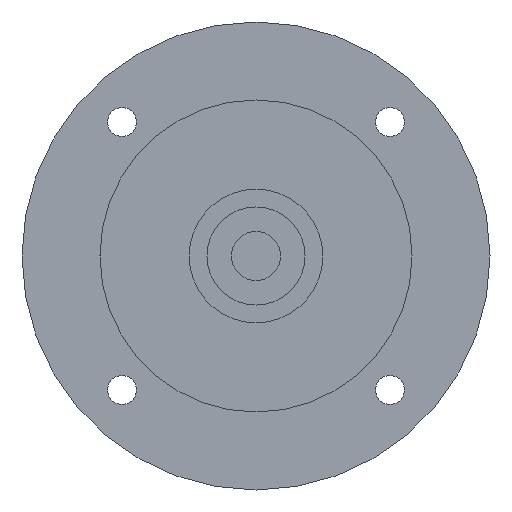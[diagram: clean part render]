
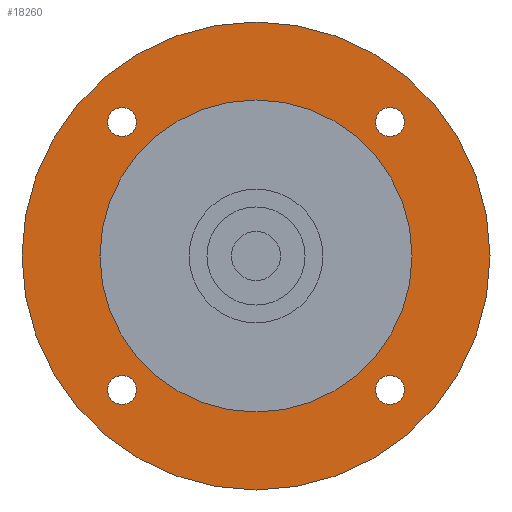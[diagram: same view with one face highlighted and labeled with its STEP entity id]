
A CAD part, left-side view. The second image highlights one B-rep face of the part: STEP entity #18260.
In plain terms, the highlighted planar face has unit normal (-1, 0, 0) as drawn and (0, 0, -1) by its records, which use the part's own axes.
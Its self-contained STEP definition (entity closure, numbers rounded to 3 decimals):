
#11110=CARTESIAN_POINT('',(30.052,-33.302,-58.5));
#11120=VERTEX_POINT('',#11110);
#11150=CARTESIAN_POINT('',(30.052,-30.052,-58.5));
#11160=DIRECTION('',(0.,0.,-1.));
#11170=DIRECTION('',(0.,-1.,0.));
#11180=AXIS2_PLACEMENT_3D('',#11150,#11160,#11170);
#11190=CIRCLE('',#11180,3.25);
#11200=CARTESIAN_POINT('',(30.052,-26.802,-58.5));
#11210=VERTEX_POINT('',#11200);
#11220=EDGE_CURVE('',#11210,#11120,#11190,.T.);
#12870=CARTESIAN_POINT('',(-30.052,-33.302,-58.5));
#12880=VERTEX_POINT('',#12870);
#12910=CARTESIAN_POINT('',(-30.052,-30.052,-58.5));
#12920=DIRECTION('',(0.,0.,-1.));
#12930=DIRECTION('',(0.,-1.,0.));
#12940=AXIS2_PLACEMENT_3D('',#12910,#12920,#12930);
#12950=CIRCLE('',#12940,3.25);
#12960=CARTESIAN_POINT('',(-30.052,-26.802,-58.5));
#12970=VERTEX_POINT('',#12960);
#12980=EDGE_CURVE('',#12970,#12880,#12950,.T.);
#17380=CARTESIAN_POINT('',(52.5,0.,-58.5));
#17390=VERTEX_POINT('',#17380);
#17420=CARTESIAN_POINT('',(0.,0.,
-58.5));
#17430=DIRECTION('',(0.,0.,1.));
#17440=DIRECTION('',(1.,0.,0.));
#17450=AXIS2_PLACEMENT_3D('',#17420,#17430,#17440);
#17460=CIRCLE('',#17450,52.5);
#17470=CARTESIAN_POINT('',(-52.5,0.,-58.5));
#17480=VERTEX_POINT('',#17470);
#17490=EDGE_CURVE('',#17480,#17390,#17460,.T.);
#17610=CARTESIAN_POINT('',(0.,0.,
-58.5));
#17620=DIRECTION('',(0.,0.,1.));
#17630=DIRECTION('',(-1.,0.,0.));
#17640=AXIS2_PLACEMENT_3D('',#17610,#17620,#17630);
#17650=PLANE('',#17640);
#17660=CARTESIAN_POINT('',(0.,0.,
-58.5));
#17670=DIRECTION('',(0.,0.,-1.));
#17680=DIRECTION('',(0.,-1.,0.));
#17690=AXIS2_PLACEMENT_3D('',#17660,#17670,#17680);
#17700=CIRCLE('',#17690,35.);
#17710=CARTESIAN_POINT('',(0.,-35.,-58.5));
#17720=VERTEX_POINT('',#17710);
#17730=CARTESIAN_POINT('',(0.,35.,-58.5));
#17740=VERTEX_POINT('',#17730);
#17750=EDGE_CURVE('',#17720,#17740,#17700,.T.);
#17760=ORIENTED_EDGE('',*,*,#17750,.F.);
#17770=EDGE_CURVE('',#17740,#17720,#17700,.T.);
#17780=ORIENTED_EDGE('',*,*,#17770,.F.);
#17790=EDGE_LOOP('',(#17780,#17760));
#17800=FACE_BOUND('',#17790,.T.);
#17810=EDGE_CURVE('',#17390,#17480,#17460,.T.);
#17820=ORIENTED_EDGE('',*,*,#17810,.F.);
#17830=ORIENTED_EDGE('',*,*,#17490,.F.);
#17840=EDGE_LOOP('',(#17830,#17820));
#17850=FACE_OUTER_BOUND('',#17840,.T.);
#17860=CARTESIAN_POINT('',(-30.052,30.052,-58.5));
#17870=DIRECTION('',(0.,0.,-1.));
#17880=DIRECTION('',(0.,-1.,0.));
#17890=AXIS2_PLACEMENT_3D('',#17860,#17870,#17880);
#17900=CIRCLE('',#17890,3.25);
#17910=CARTESIAN_POINT('',(-30.052,26.802,-58.5));
#17920=VERTEX_POINT('',#17910);
#17930=CARTESIAN_POINT('',(-30.052,33.302,-58.5));
#17940=VERTEX_POINT('',#17930);
#17950=EDGE_CURVE('',#17920,#17940,#17900,.T.);
#17960=ORIENTED_EDGE('',*,*,#17950,.F.);
#17970=EDGE_CURVE('',#17940,#17920,#17900,.T.);
#17980=ORIENTED_EDGE('',*,*,#17970,.F.);
#17990=EDGE_LOOP('',(#17980,#17960));
#18000=FACE_BOUND('',#17990,.T.);
#18010=CARTESIAN_POINT('',(30.052,30.052,-58.5));
#18020=DIRECTION('',(0.,0.,-1.));
#18030=DIRECTION('',(0.,-1.,0.));
#18040=AXIS2_PLACEMENT_3D('',#18010,#18020,#18030);
#18050=CIRCLE('',#18040,3.25);
#18060=CARTESIAN_POINT('',(30.052,26.802,-58.5));
#18070=VERTEX_POINT('',#18060);
#18080=CARTESIAN_POINT('',(30.052,33.302,-58.5));
#18090=VERTEX_POINT('',#18080);
#18100=EDGE_CURVE('',#18070,#18090,#18050,.T.);
#18110=ORIENTED_EDGE('',*,*,#18100,.F.);
#18120=EDGE_CURVE('',#18090,#18070,#18050,.T.);
#18130=ORIENTED_EDGE('',*,*,#18120,.F.);
#18140=EDGE_LOOP('',(#18130,#18110));
#18150=FACE_BOUND('',#18140,.T.);
#18160=EDGE_CURVE('',#11120,#11210,#11190,.T.);
#18170=ORIENTED_EDGE('',*,*,#18160,.F.);
#18180=ORIENTED_EDGE('',*,*,#11220,.F.);
#18190=EDGE_LOOP('',(#18180,#18170));
#18200=FACE_BOUND('',#18190,.T.);
#18210=EDGE_CURVE('',#12880,#12970,#12950,.T.);
#18220=ORIENTED_EDGE('',*,*,#18210,.F.);
#18230=ORIENTED_EDGE('',*,*,#12980,.F.);
#18240=EDGE_LOOP('',(#18230,#18220));
#18250=FACE_BOUND('',#18240,.T.);
#18260=ADVANCED_FACE('',(#17800,#17850,#18000,#18150,#18200,#18250),
#17650,.F.);
